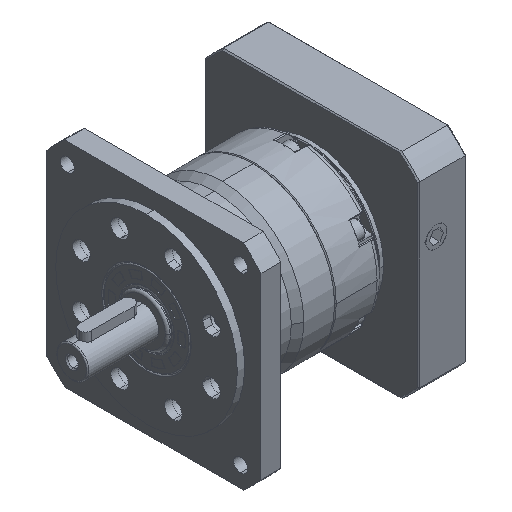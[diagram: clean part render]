
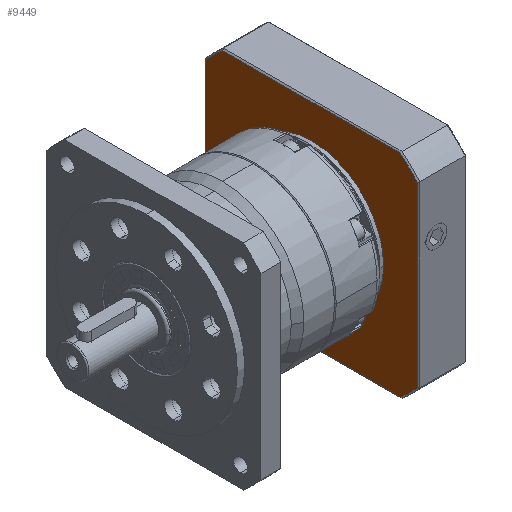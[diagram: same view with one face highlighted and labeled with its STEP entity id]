
A CAD part, isometric view. The second image highlights one B-rep face of the part: STEP entity #9449.
In plain terms, the highlighted planar face has unit normal (-1, 0, 0) as drawn and (0, 0, 1) by its records, which use the part's own axes.
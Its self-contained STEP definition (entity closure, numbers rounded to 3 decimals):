
#21 = DIRECTION ( 'NONE',  ( 0., 0., 1. ) ) ;
#520 = ORIENTED_EDGE ( 'NONE', *, *, #13797, .T. ) ;
#635 = VECTOR ( 'NONE', #1646, 1000. ) ;
#857 = DIRECTION ( 'NONE',  ( 1., 0., 0. ) ) ;
#960 = VECTOR ( 'NONE', #9515, 1000. ) ;
#1299 = CIRCLE ( 'NONE', #17563, 55.5 ) ;
#1646 = DIRECTION ( 'NONE',  ( -1., 0., 0. ) ) ;
#1709 = ORIENTED_EDGE ( 'NONE', *, *, #5280, .T. ) ;
#1885 = VERTEX_POINT ( 'NONE', #12711 ) ;
#2537 = DIRECTION ( 'NONE',  ( 0., 0., -1. ) ) ;
#2794 = VERTEX_POINT ( 'NONE', #17932 ) ;
#2925 = LINE ( 'NONE', #14373, #635 ) ;
#2930 = CARTESIAN_POINT ( 'NONE',  ( 35.693, 42.5, 19.2 ) ) ;
#3128 = ORIENTED_EDGE ( 'NONE', *, *, #21848, .T. ) ;
#3375 = CARTESIAN_POINT ( 'NONE',  ( -35.693, 42.5, 19.2 ) ) ;
#3533 = DIRECTION ( 'NONE',  ( 0., 1., 0. ) ) ;
#4762 = CIRCLE ( 'NONE', #9977, 55.5 ) ;
#5280 = EDGE_CURVE ( 'NONE', #18190, #2794, #1299, .T. ) ;
#5538 = CARTESIAN_POINT ( 'NONE',  ( 0., -55.5, 19.2 ) ) ;
#5590 = CARTESIAN_POINT ( 'NONE',  ( 0., 0., 19.2 ) ) ;
#6242 = LINE ( 'NONE', #23901, #17841 ) ;
#6350 = CARTESIAN_POINT ( 'NONE',  ( 0., 0., 19.2 ) ) ;
#6625 = VECTOR ( 'NONE', #14195, 1000. ) ;
#7200 = CIRCLE ( 'NONE', #13083, 55.5 ) ;
#7497 = CIRCLE ( 'NONE', #20695, 55.5 ) ;
#7787 = LINE ( 'NONE', #12502, #6625 ) ;
#7812 = VERTEX_POINT ( 'NONE', #2930 ) ;
#8714 = DIRECTION ( 'NONE',  ( 1., 0., 0. ) ) ;
#9253 = DIRECTION ( 'NONE',  ( 0., 0., 1. ) ) ;
#9449 = ADVANCED_FACE ( 'NONE', ( #21917, #12044 ), #13086, .T. ) ;
#9515 = DIRECTION ( 'NONE',  ( 0., -1., 0. ) ) ;
#9527 = DIRECTION ( 'NONE',  ( 0., 0., 1. ) ) ;
#9666 = ORIENTED_EDGE ( 'NONE', *, *, #10917, .T. ) ;
#9977 = AXIS2_PLACEMENT_3D ( 'NONE', #5590, #16657, #20184 ) ;
#10335 = VERTEX_POINT ( 'NONE', #23731 ) ;
#10499 = CARTESIAN_POINT ( 'NONE',  ( 0., 0., 19.2 ) ) ;
#10514 = LINE ( 'NONE', #17172, #960 ) ;
#10917 = EDGE_CURVE ( 'NONE', #12618, #11526, #16917, .T. ) ;
#11055 = CARTESIAN_POINT ( 'NONE',  ( 0., 0., 19.2 ) ) ;
#11056 = EDGE_CURVE ( 'NONE', #1885, #18190, #10514, .T. ) ;
#11108 = DIRECTION ( 'NONE',  ( 0., 0., 1. ) ) ;
#11526 = VERTEX_POINT ( 'NONE', #16938 ) ;
#11927 = EDGE_CURVE ( 'NONE', #7812, #20199, #2925, .T. ) ;
#12044 = FACE_BOUND ( 'NONE', #12559, .T. ) ;
#12502 = CARTESIAN_POINT ( 'NONE',  ( 0., -42.5, 19.2 ) ) ;
#12559 = EDGE_LOOP ( 'NONE', ( #9666, #520 ) ) ;
#12618 = VERTEX_POINT ( 'NONE', #13386 ) ;
#12711 = CARTESIAN_POINT ( 'NONE',  ( -42.5, 35.693, 19.2 ) ) ;
#13083 = AXIS2_PLACEMENT_3D ( 'NONE', #23910, #11108, #22152 ) ;
#13086 = PLANE ( 'NONE',  #23897 ) ;
#13169 = DIRECTION ( 'NONE',  ( 1., 0., 0. ) ) ;
#13386 = CARTESIAN_POINT ( 'NONE',  ( 29., 0., 19.2 ) ) ;
#13797 = EDGE_CURVE ( 'NONE', #11526, #12618, #22372, .T. ) ;
#14195 = DIRECTION ( 'NONE',  ( 1., 0., 0. ) ) ;
#14373 = CARTESIAN_POINT ( 'NONE',  ( 0., 42.5, 19.2 ) ) ;
#14461 = EDGE_CURVE ( 'NONE', #20199, #1885, #7497, .T. ) ;
#14636 = EDGE_LOOP ( 'NONE', ( #23455, #18384, #1709, #17260, #21566, #23882, #3128, #20819 ) ) ;
#14694 = AXIS2_PLACEMENT_3D ( 'NONE', #10499, #18200, #8714 ) ;
#14805 = CARTESIAN_POINT ( 'NONE',  ( 0., 0., 19.2 ) ) ;
#14836 = EDGE_CURVE ( 'NONE', #2794, #17189, #7787, .T. ) ;
#14903 = EDGE_CURVE ( 'NONE', #17189, #20560, #7200, .T. ) ;
#15140 = DIRECTION ( 'NONE',  ( -1., 0., 0. ) ) ;
#16657 = DIRECTION ( 'NONE',  ( 0., 0., 1. ) ) ;
#16917 = CIRCLE ( 'NONE', #14694, 29. ) ;
#16938 = CARTESIAN_POINT ( 'NONE',  ( -29., 0., 19.2 ) ) ;
#17115 = CARTESIAN_POINT ( 'NONE',  ( -42.5, -35.693, 19.2 ) ) ;
#17172 = CARTESIAN_POINT ( 'NONE',  ( -42.5, -55.5, 19.2 ) ) ;
#17189 = VERTEX_POINT ( 'NONE', #22974 ) ;
#17260 = ORIENTED_EDGE ( 'NONE', *, *, #14836, .T. ) ;
#17563 = AXIS2_PLACEMENT_3D ( 'NONE', #14805, #9527, #15140 ) ;
#17841 = VECTOR ( 'NONE', #3533, 1000. ) ;
#17932 = CARTESIAN_POINT ( 'NONE',  ( -35.693, -42.5, 19.2 ) ) ;
#18190 = VERTEX_POINT ( 'NONE', #17115 ) ;
#18200 = DIRECTION ( 'NONE',  ( 0., 0., -1. ) ) ;
#18384 = ORIENTED_EDGE ( 'NONE', *, *, #11056, .T. ) ;
#18977 = AXIS2_PLACEMENT_3D ( 'NONE', #6350, #2537, #857 ) ;
#20040 = DIRECTION ( 'NONE',  ( -1., 0., 0. ) ) ;
#20184 = DIRECTION ( 'NONE',  ( -1., 0., 0. ) ) ;
#20199 = VERTEX_POINT ( 'NONE', #3375 ) ;
#20221 = EDGE_CURVE ( 'NONE', #20560, #10335, #6242, .T. ) ;
#20560 = VERTEX_POINT ( 'NONE', #20839 ) ;
#20695 = AXIS2_PLACEMENT_3D ( 'NONE', #11055, #9253, #20040 ) ;
#20819 = ORIENTED_EDGE ( 'NONE', *, *, #11927, .T. ) ;
#20839 = CARTESIAN_POINT ( 'NONE',  ( 42.5, -35.693, 19.2 ) ) ;
#21566 = ORIENTED_EDGE ( 'NONE', *, *, #14903, .T. ) ;
#21848 = EDGE_CURVE ( 'NONE', #10335, #7812, #4762, .T. ) ;
#21917 = FACE_OUTER_BOUND ( 'NONE', #14636, .T. ) ;
#22152 = DIRECTION ( 'NONE',  ( -1., 0., 0. ) ) ;
#22372 = CIRCLE ( 'NONE', #18977, 29. ) ;
#22974 = CARTESIAN_POINT ( 'NONE',  ( 35.693, -42.5, 19.2 ) ) ;
#23455 = ORIENTED_EDGE ( 'NONE', *, *, #14461, .T. ) ;
#23731 = CARTESIAN_POINT ( 'NONE',  ( 42.5, 35.693, 19.2 ) ) ;
#23882 = ORIENTED_EDGE ( 'NONE', *, *, #20221, .T. ) ;
#23897 = AXIS2_PLACEMENT_3D ( 'NONE', #5538, #21, #13169 ) ;
#23901 = CARTESIAN_POINT ( 'NONE',  ( 42.5, -55.5, 19.2 ) ) ;
#23910 = CARTESIAN_POINT ( 'NONE',  ( 0., 0., 19.2 ) ) ;
